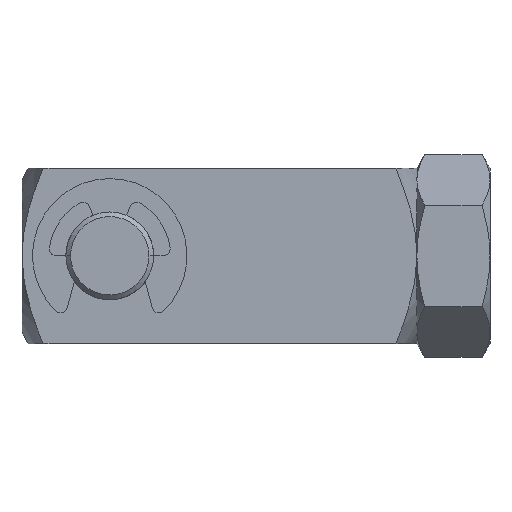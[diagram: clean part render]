
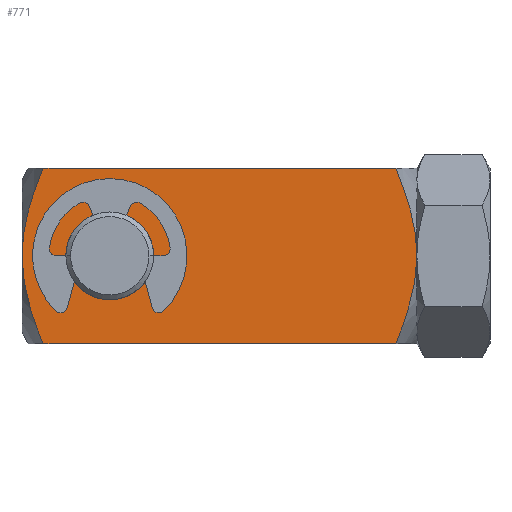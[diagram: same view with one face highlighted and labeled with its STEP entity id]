
A CAD part, top view. The second image highlights one B-rep face of the part: STEP entity #771.
In plain terms, the highlighted planar face has unit normal (0, 0, 1).
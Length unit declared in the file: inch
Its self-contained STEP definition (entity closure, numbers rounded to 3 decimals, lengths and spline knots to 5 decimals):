
#113=CARTESIAN_POINT('',(-1.59782,0.375,0.375));
#114=CARTESIAN_POINT('',(-1.6072,0.35203,0.375));
#115=CARTESIAN_POINT('',(-1.6242,0.30825,0.375));
#116=CARTESIAN_POINT('',(-1.64429,0.24988,0.375));
#117=CARTESIAN_POINT('',(-1.66004,0.19653,0.375));
#118=CARTESIAN_POINT('',(-1.67215,0.14616,0.375));
#119=CARTESIAN_POINT('',(-1.68091,0.09715,0.375));
#120=CARTESIAN_POINT('',(-1.68628,0.04857,0.375));
#121=CARTESIAN_POINT('',(-1.6875,0.01618,0.375));
#122=CARTESIAN_POINT('',(-1.6875,0.,0.375));
#124=CARTESIAN_POINT('',(-0.08968,0.375,0.375));
#125=CARTESIAN_POINT('',(-0.0803,0.35203,0.375));
#126=CARTESIAN_POINT('',(-0.0633,0.30825,0.375));
#127=CARTESIAN_POINT('',(-0.04321,0.24988,0.375));
#128=CARTESIAN_POINT('',(-0.02746,0.19653,0.375));
#129=CARTESIAN_POINT('',(-0.01535,0.14616,0.375));
#130=CARTESIAN_POINT('',(-0.00659,0.09715,0.375));
#131=CARTESIAN_POINT('',(-0.00122,0.04857,0.375));
#132=CARTESIAN_POINT('',(0.,0.01618,0.375));
#133=CARTESIAN_POINT('',(0.,0.,0.375));
#135=CARTESIAN_POINT('',(0.,0.,0.375));
#136=CARTESIAN_POINT('',(0.,-0.01617,0.375));
#137=CARTESIAN_POINT('',(-0.00121,-0.04854,0.375));
#138=CARTESIAN_POINT('',(-0.00659,-0.09709,0.375));
#139=CARTESIAN_POINT('',(-0.01533,-0.14602,0.375));
#140=CARTESIAN_POINT('',(-0.02739,-0.19627,0.375));
#141=CARTESIAN_POINT('',(-0.04303,-0.24932,0.375));
#142=CARTESIAN_POINT('',(-0.06317,-0.30789,0.375));
#143=CARTESIAN_POINT('',(-0.08024,-0.35189,0.375));
#144=CARTESIAN_POINT('',(-0.08968,-0.375,0.375));
#146=CARTESIAN_POINT('',(-1.6875,0.,0.375));
#147=CARTESIAN_POINT('',(-1.6875,-0.01617,0.375));
#148=CARTESIAN_POINT('',(-1.68629,-0.04854,0.375));
#149=CARTESIAN_POINT('',(-1.68091,-0.09709,0.375));
#150=CARTESIAN_POINT('',(-1.67217,-0.14602,0.375));
#151=CARTESIAN_POINT('',(-1.66011,-0.19627,0.375));
#152=CARTESIAN_POINT('',(-1.64447,-0.24932,0.375));
#153=CARTESIAN_POINT('',(-1.62433,-0.30789,0.375));
#154=CARTESIAN_POINT('',(-1.60726,-0.35189,0.375));
#155=CARTESIAN_POINT('',(-1.59782,-0.375,0.375));
#157=CARTESIAN_POINT('',(-1.3125,0.,0.375));
#158=DIRECTION('',(0.,0.,-1.));
#159=DIRECTION('',(-1.,0.,0.));
#160=AXIS2_PLACEMENT_3D('',#157,#158,#159);
#162=CARTESIAN_POINT('',(-1.3125,0.,0.375));
#163=DIRECTION('',(0.,0.,-1.));
#164=DIRECTION('',(1.,0.,0.));
#165=AXIS2_PLACEMENT_3D('',#162,#163,#164);
#177=CARTESIAN_POINT('',(-1.59782,-0.375,0.375));
#184=DIRECTION('',(1.,0.,0.));
#185=VECTOR('',#184,1.50814);
#186=CARTESIAN_POINT('',(-1.59782,-0.375,0.375));
#187=LINE('',#186,#185);
#188=CARTESIAN_POINT('',(-0.08968,-0.375,0.375));
#269=CARTESIAN_POINT('',(-0.08968,0.375,0.375));
#271=DIRECTION('',(1.,0.,0.));
#272=VECTOR('',#271,1.50814);
#273=CARTESIAN_POINT('',(-1.59782,0.375,0.375));
#274=LINE('',#273,#272);
#280=CARTESIAN_POINT('',(-1.59782,0.375,0.375));
#536=VERTEX_POINT('',#177);
#540=VERTEX_POINT('',#188);
#546=VERTEX_POINT('',#280);
#549=VERTEX_POINT('',#269);
#557=CARTESIAN_POINT('',(-1.6875,0.,0.375));
#558=VERTEX_POINT('',#557);
#559=VERTEX_POINT('',#133);
#564=CARTESIAN_POINT('',(-1.5005,0.,0.375));
#565=CARTESIAN_POINT('',(-1.1245,0.,0.375));
#566=VERTEX_POINT('',#564);
#567=VERTEX_POINT('',#565);
#748=CARTESIAN_POINT('',(-1.6875,-0.375,0.375));
#749=DIRECTION('',(0.,0.,1.));
#750=DIRECTION('',(1.,0.,0.));
#751=AXIS2_PLACEMENT_3D('',#748,#749,#750);
#752=PLANE('',#751);
#754=ORIENTED_EDGE('',*,*,#753,.F.);
#756=ORIENTED_EDGE('',*,*,#755,.T.);
#758=ORIENTED_EDGE('',*,*,#757,.T.);
#760=ORIENTED_EDGE('',*,*,#759,.T.);
#762=ORIENTED_EDGE('',*,*,#761,.F.);
#764=ORIENTED_EDGE('',*,*,#763,.F.);
#765=EDGE_LOOP('',(#754,#756,#758,#760,#762,#764));
#766=FACE_OUTER_BOUND('',#765,.F.);
#767=ORIENTED_EDGE('',*,*,#686,.F.);
#768=ORIENTED_EDGE('',*,*,#722,.F.);
#769=EDGE_LOOP('',(#767,#768));
#770=FACE_BOUND('',#769,.F.);
#771=ADVANCED_FACE('',(#766,#770),#752,.T.);
#123=B_SPLINE_CURVE_WITH_KNOTS('',3,(#113,#114,#115,#116,#117,#118,#119,#120,
#121,#122),.UNSPECIFIED.,.F.,.F.,(4,1,1,1,1,1,1,4),(0.,0.14286,
0.28571,0.42857,0.57143,0.71429,
0.85714,1.),.UNSPECIFIED.);
#134=B_SPLINE_CURVE_WITH_KNOTS('',3,(#124,#125,#126,#127,#128,#129,#130,#131,
#132,#133),.UNSPECIFIED.,.F.,.F.,(4,1,1,1,1,1,1,4),(0.,0.14286,
0.28571,0.42857,0.57143,0.71429,
0.85714,1.),.UNSPECIFIED.);
#145=B_SPLINE_CURVE_WITH_KNOTS('',3,(#135,#136,#137,#138,#139,#140,#141,#142,
#143,#144),.UNSPECIFIED.,.F.,.F.,(4,1,1,1,1,1,1,4),(0.,0.14286,
0.28571,0.42857,0.57143,0.71429,
0.85714,1.),.UNSPECIFIED.);
#156=B_SPLINE_CURVE_WITH_KNOTS('',3,(#146,#147,#148,#149,#150,#151,#152,#153,
#154,#155),.UNSPECIFIED.,.F.,.F.,(4,1,1,1,1,1,1,4),(0.,0.14286,
0.28571,0.42857,0.57143,0.71429,
0.85714,1.),.UNSPECIFIED.);
#161=CIRCLE('',#160,0.188);
#166=CIRCLE('',#165,0.188);
#686=EDGE_CURVE('',#566,#567,#161,.T.);
#722=EDGE_CURVE('',#567,#566,#166,.T.);
#753=EDGE_CURVE('',#546,#558,#123,.T.);
#755=EDGE_CURVE('',#546,#549,#274,.T.);
#757=EDGE_CURVE('',#549,#559,#134,.T.);
#759=EDGE_CURVE('',#559,#540,#145,.T.);
#761=EDGE_CURVE('',#536,#540,#187,.T.);
#763=EDGE_CURVE('',#558,#536,#156,.T.);
